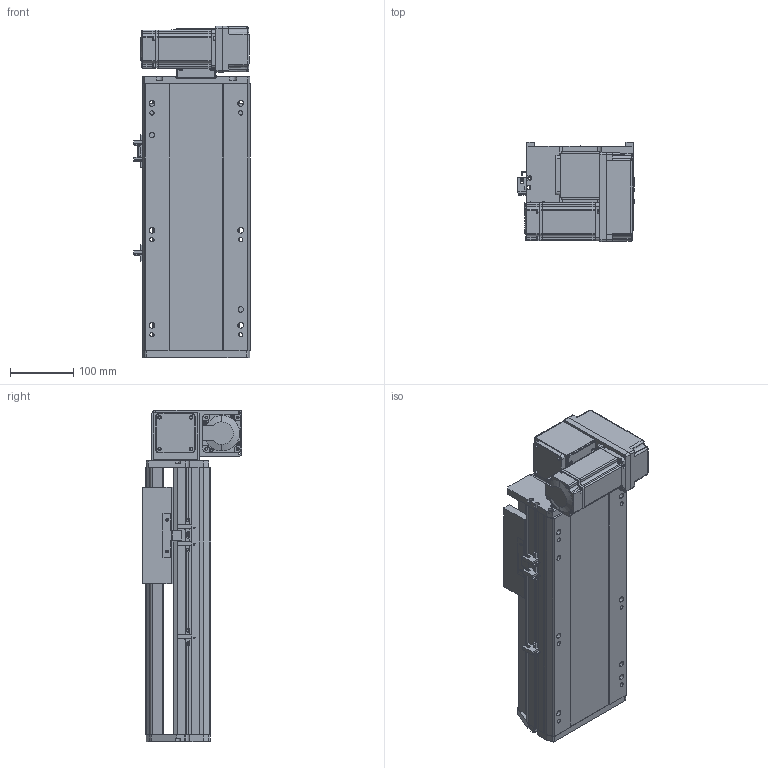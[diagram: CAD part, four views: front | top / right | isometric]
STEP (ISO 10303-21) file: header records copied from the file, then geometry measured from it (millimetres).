
FILE_DESCRIPTION (( 'STEP AP214' ), '1' );
FILE_NAME ('RTB17S-XX-150-RM-M40-C4.STEP', '2025-12-11T08:08:52', ( '' ), ( '' ), 'SwSTEP 2.0', 'SolidWorks 2018', '' );
FILE_SCHEMA (( 'AUTOMOTIVE_DESIGN' ));
Length unit declared in the file: millimetre
Products named in the file (14): RTB14-L-005P--轴承塑胶压盖^RTB17S-RM-皮带座装配-400W_RTB17S-XX-XX-RM-M40-C4; RTB14-L-008-M20--萇儂啣^RTB17S-RM-々湍釱蚾饜-400W_RTB17S-XX-XX-RM-M40-C4; OMRON EE-SX672 传感器^RTB17S-XX-XX-RM-M40-C4; 400W侜督萇儂^RTB17S-XX-XX-RM-M40-C4; RTB17S-L-007奻裔^RTB17S-XX-XX-RM-M40-C4; RTB17-R-011菁釱^RTB17S-XX-XX-RM-M40-C4; RTB17S-L-004佪裝蹟譫蟀諉釱^RTB17S-XX-XX-RM-M40-C4; RTB17S-L-001耜醱啣^RTB17S-XX-XX-RM-M40-C4; RTB14-L-017P^RTB17S-RM-々湍釱蚾饜-400W_RTB17S-XX-XX-RM-M40-C4; RTB17S-XX-150-RM-M40-C4; RTB14-L-018P^RTB17S-RM-々湍釱蚾饜-400W_RTB17S-XX-XX-RM-M40-C4; RTB17S-RM-々湍釱蚾饜-400W^RTB17S-XX-XX-RM-M40-C4; RTB17S-L-014-T20--々湍釱^RTB17S-RM-々湍釱蚾饜-400W_RTB17S-XX-XX-RM-M40-C4; RTH13-BL-012覜茼え俋离^RTB17S-XX-XX-RM-M40-C4
Assembly tree (16 placements, depth 3):
  RTB17S-XX-150-RM-M40-C4
    RTB17-R-011菁釱^RTB17S-XX-XX-RM-M40-C4
    RTB17S-L-007奻裔^RTB17S-XX-XX-RM-M40-C4
    OMRON EE-SX672 传感器^RTB17S-XX-XX-RM-M40-C4  x3
    RTB17S-L-001耜醱啣^RTB17S-XX-XX-RM-M40-C4
    400W侜督萇儂^RTB17S-XX-XX-RM-M40-C4
    RTB17S-L-004佪裝蹟譫蟀諉釱^RTB17S-XX-XX-RM-M40-C4
    RTH13-BL-012覜茼え俋离^RTB17S-XX-XX-RM-M40-C4
    RTB17S-RM-々湍釱蚾饜-400W^RTB17S-XX-XX-RM-M40-C4
      RTB17S-L-014-T20--々湍釱^RTB17S-RM-々湍釱蚾饜-400W_RTB17S-XX-XX-RM-M40-C4
      RTB14-L-005P--轴承塑胶压盖^RTB17S-RM-皮带座装配-400W_RTB17S-XX-XX-RM-M40-C4
      RTB14-L-008-M20--萇儂啣^RTB17S-RM-々湍釱蚾饜-400W_RTB17S-XX-XX-RM-M40-C4
      RTB14-L-017P^RTB17S-RM-々湍釱蚾饜-400W_RTB17S-XX-XX-RM-M40-C4  x2
      RTB14-L-018P^RTB17S-RM-々湍釱蚾饜-400W_RTB17S-XX-XX-RM-M40-C4
Bounding box: 183.5 x 156.5 x 522.5 mm (x, y, z)
Volume: 5442698 mm3; surface area: 742167.2 mm2
Topology: 15 solids, 15 shells, 2141 faces, 5871 edges, 3825 vertices
Faces by surface type: plane 1060, cylinder 633, bspline 301, cone 139, torus 8
Entity records: 59561 total; most frequent: CARTESIAN_POINT 16476, ORIENTED_EDGE 8586, DIRECTION 8036, EDGE_CURVE 4293, VERTEX_POINT 2813, AXIS2_PLACEMENT_3D 2743, LINE 2550, VECTOR 2550
